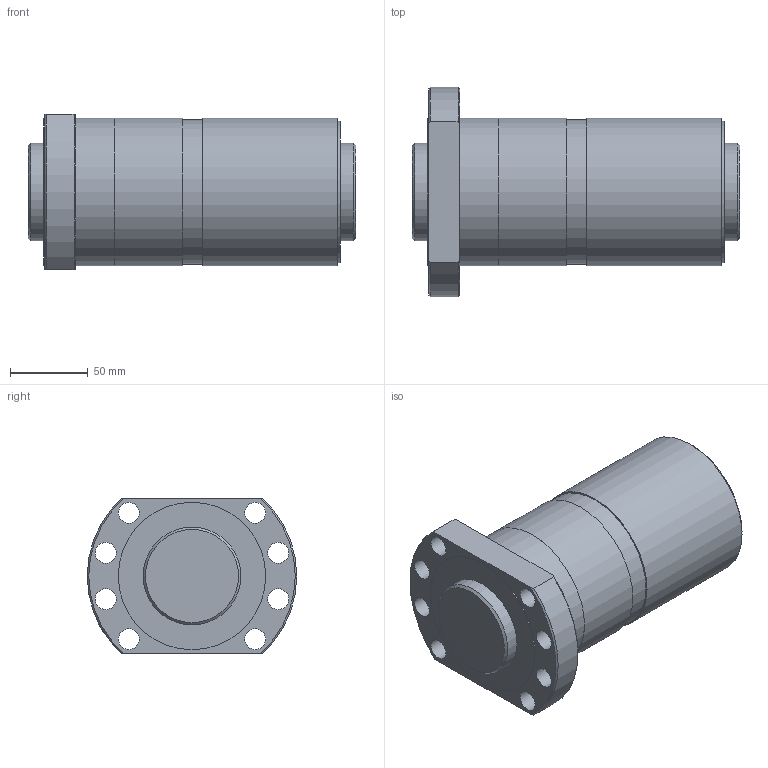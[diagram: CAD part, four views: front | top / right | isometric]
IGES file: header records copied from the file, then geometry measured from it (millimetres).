
Start section: Data from Parasolid IGES Translator 26.0.171, Copyright(c) 2006 Siemens PLM Software. All Rights Reserved.
Global section: file name: SDAN6320VX-4G0+211LC0(0G000).igs; native system: By Siemens PLM Incorporated; preprocessor: XPlus GENERIC/IGES 26.0.171; author: Noname; organization: Noname; date: 20240704.102320; units: millimetre
Bounding box: 211 x 135 x 100 mm (x, y, z)
Surface area: 168634.9 mm2 (no closed solid volume)
Topology: 0 solids, 0 shells, 41 faces, 198 edges, 175 vertices
Faces by surface type: revolution 28, extrusion 13
